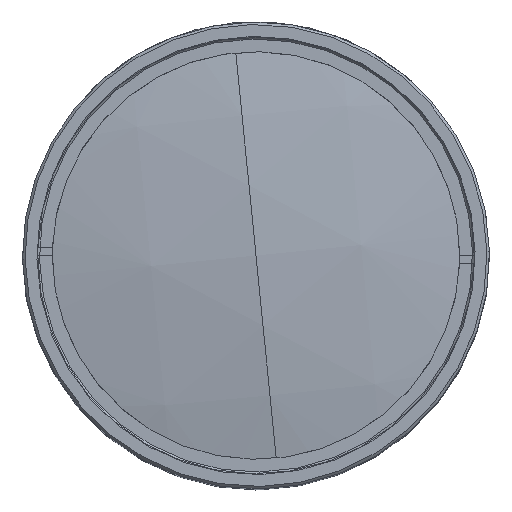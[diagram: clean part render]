
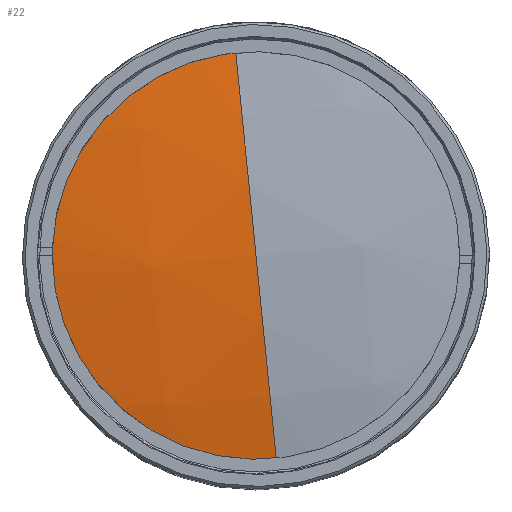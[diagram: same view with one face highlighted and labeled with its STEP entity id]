
A CAD part, top view. The second image highlights one B-rep face of the part: STEP entity #22.
In plain terms, the highlighted spherical face has radius 138.5 mm.
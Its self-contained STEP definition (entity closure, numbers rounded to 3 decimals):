
#22 = ADVANCED_FACE ( 'NONE', ( #27417 ), #22603, .T. ) ;
#200 = DIRECTION ( 'NONE',  ( -0.099, 0.995, 0. ) ) ;
#1645 = EDGE_CURVE ( 'NONE', #8243, #26290, #17985, .T. ) ;
#1931 = CARTESIAN_POINT ( 'NONE',  ( -2.458, 24.628, 154.259 ) ) ;
#4506 = CIRCLE ( 'NONE', #26145, 24.75 ) ;
#4943 = DIRECTION ( 'NONE',  ( 0., 0., 1. ) ) ;
#5476 = CIRCLE ( 'NONE', #6849, 138.5 ) ;
#6849 = AXIS2_PLACEMENT_3D ( 'NONE', #11646, #13541, #11189 ) ;
#7165 = ORIENTED_EDGE ( 'NONE', *, *, #26371, .T. ) ;
#8243 = VERTEX_POINT ( 'NONE', #1931 ) ;
#8874 = AXIS2_PLACEMENT_3D ( 'NONE', #18295, #26851, #20380 ) ;
#10800 = DIRECTION ( 'NONE',  ( 0.995, 0.099, 0. ) ) ;
#11189 = DIRECTION ( 'NONE',  ( 0.099, -0.995, 0. ) ) ;
#11646 = CARTESIAN_POINT ( 'NONE',  ( 0., 0., 17.988 ) ) ;
#13026 = CARTESIAN_POINT ( 'NONE',  ( 0., 0., 154.259 ) ) ;
#13109 = CARTESIAN_POINT ( 'NONE',  ( 2.458, -24.628, 154.259 ) ) ;
#13274 = CARTESIAN_POINT ( 'NONE',  ( 0., 0., 17.988 ) ) ;
#13541 = DIRECTION ( 'NONE',  ( -0.995, -0.099, 0. ) ) ;
#13912 = DIRECTION ( 'NONE',  ( 0.995, 0.099, 0. ) ) ;
#14710 = ORIENTED_EDGE ( 'NONE', *, *, #24304, .T. ) ;
#15383 = CARTESIAN_POINT ( 'NONE',  ( 0., 0., 156.488 ) ) ;
#16188 = ORIENTED_EDGE ( 'NONE', *, *, #1645, .F. ) ;
#17299 = VERTEX_POINT ( 'NONE', #24852 ) ;
#17985 = CIRCLE ( 'NONE', #21312, 138.5 ) ;
#18075 = ORIENTED_EDGE ( 'NONE', *, *, #18267, .T. ) ;
#18267 = EDGE_CURVE ( 'NONE', #25559, #26290, #5476, .T. ) ;
#18295 = CARTESIAN_POINT ( 'NONE',  ( 0., 0., 17.988 ) ) ;
#18494 = CARTESIAN_POINT ( 'NONE',  ( 0., 0., 154.259 ) ) ;
#20380 = DIRECTION ( 'NONE',  ( -0.099, 0.995, 0. ) ) ;
#21312 = AXIS2_PLACEMENT_3D ( 'NONE', #13274, #27031, #200 ) ;
#22058 = DIRECTION ( 'NONE',  ( 0., 0., 1. ) ) ;
#22261 = EDGE_LOOP ( 'NONE', ( #14710, #7165, #18075, #16188 ) ) ;
#22603 = SPHERICAL_SURFACE ( 'NONE', #8874, 138.5 ) ;
#24304 = EDGE_CURVE ( 'NONE', #8243, #17299, #26994, .T. ) ;
#24852 = CARTESIAN_POINT ( 'NONE',  ( -24.628, -2.458, 154.259 ) ) ;
#25559 = VERTEX_POINT ( 'NONE', #13109 ) ;
#25590 = AXIS2_PLACEMENT_3D ( 'NONE', #18494, #4943, #13912 ) ;
#26145 = AXIS2_PLACEMENT_3D ( 'NONE', #13026, #22058, #10800 ) ;
#26290 = VERTEX_POINT ( 'NONE', #15383 ) ;
#26371 = EDGE_CURVE ( 'NONE', #17299, #25559, #4506, .T. ) ;
#26851 = DIRECTION ( 'NONE',  ( -0.995, -0.099, 0. ) ) ;
#26994 = CIRCLE ( 'NONE', #25590, 24.75 ) ;
#27031 = DIRECTION ( 'NONE',  ( 0.995, 0.099, 0. ) ) ;
#27417 = FACE_OUTER_BOUND ( 'NONE', #22261, .T. ) ;
